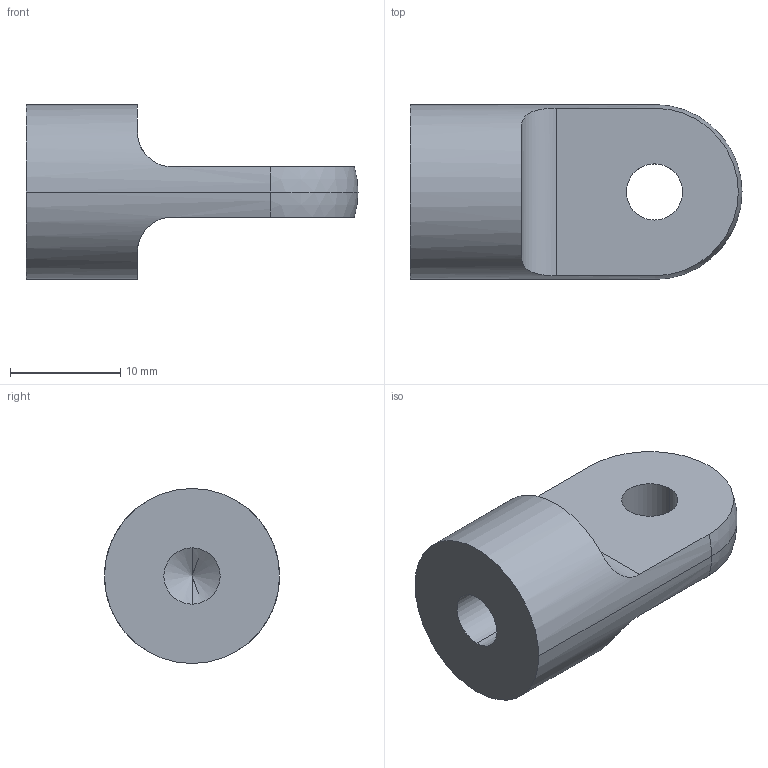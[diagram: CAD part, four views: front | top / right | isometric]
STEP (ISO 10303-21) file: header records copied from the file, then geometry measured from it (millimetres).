
FILE_DESCRIPTION (( 'STEP AP203' ), '1' );
FILE_NAME ('0.500 In. End Thread Male Clevis.STEP', '2015-09-08T19:51:55', ( 'Allred & Associates' ), ( 'Allred & Associates' ), 'SwSTEP 2.0', 'SolidWorks 2015', '' );
FILE_SCHEMA (( 'CONFIG_CONTROL_DESIGN' ));
Length unit declared in the file: inch
Products named in the file (1): 0.500 In. End Thread Male Clevis
Bounding box: 30.12 x 15.88 x 15.88 mm (x, y, z)
Volume: 3068.8 mm3; surface area: 1758.6 mm2
Topology: 1 solids, 1 shells, 17 faces, 42 edges, 26 vertices
Faces by surface type: cylinder 8, plane 5, cone 2, sphere 2
Entity records: 641 total; most frequent: CARTESIAN_POINT 152, DIRECTION 92, ORIENTED_EDGE 80, EDGE_CURVE 40, AXIS2_PLACEMENT_3D 38, VERTEX_POINT 26, CIRCLE 20, EDGE_LOOP 20
